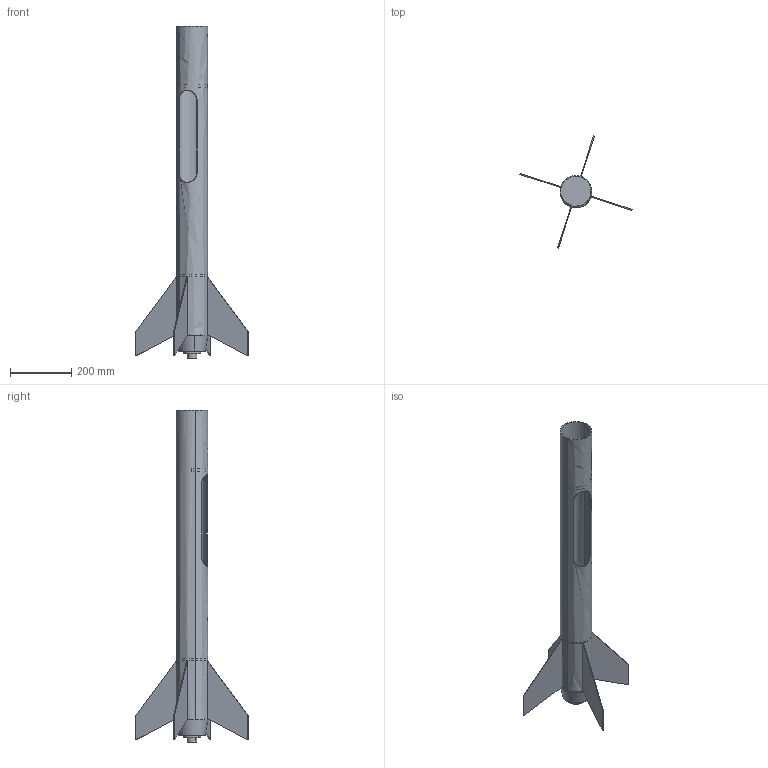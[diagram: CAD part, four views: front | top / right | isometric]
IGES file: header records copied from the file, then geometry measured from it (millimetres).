
Start section: START RECORD GO HERE.
Global section: file name: SP02_ALPHA.igs; native system: IBM CATIA IGES - CATIA Version 5 Release 19 ; preprocessor: CATIA Version 5 Release 19 ; author: lucaspichon; organization: LUCASPICHON829F; date: 20251020.092256; units: millimetre
Bounding box: 366.55 x 366.55 x 1082.7 mm (x, y, z)
Surface area: 1087594.7 mm2 (no closed solid volume)
Topology: 0 solids, 0 shells, 106 faces, 476 edges, 476 vertices
Faces by surface type: plane 68, revolution 38
